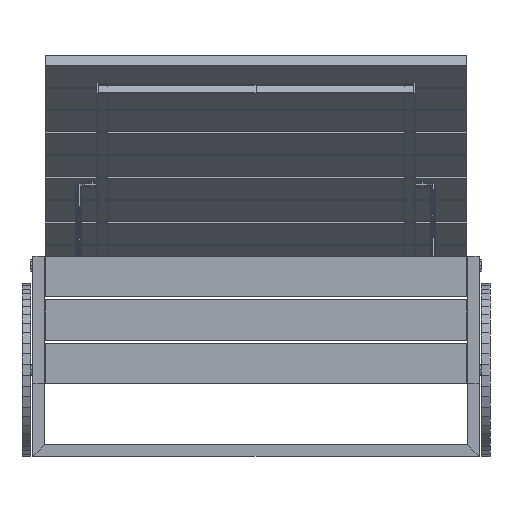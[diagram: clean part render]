
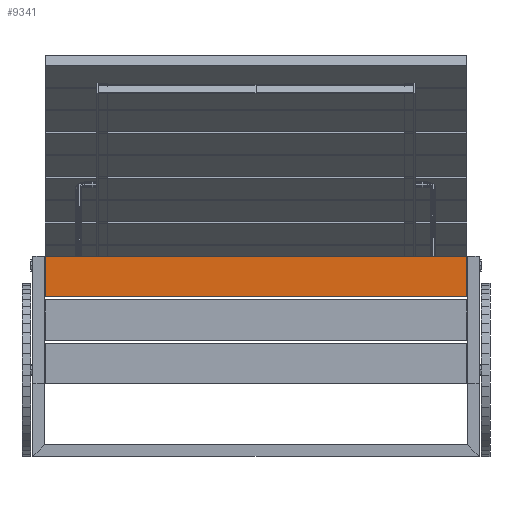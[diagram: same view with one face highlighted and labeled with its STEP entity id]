
A CAD part, left-side view. The second image highlights one B-rep face of the part: STEP entity #9341.
In plain terms, the highlighted planar face has unit normal (-1, 0, 0).
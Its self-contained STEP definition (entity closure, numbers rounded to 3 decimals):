
#193=FACE_OUTER_BOUND('',#793,.T.);
#793=EDGE_LOOP('',(#6196,#6197,#6198,#6199));
#1548=LINE('',#13567,#2760);
#1554=LINE('',#13578,#2766);
#1555=LINE('',#13581,#2767);
#1556=LINE('',#13582,#2768);
#2760=VECTOR('',#11100,10.);
#2766=VECTOR('',#11110,10.);
#2767=VECTOR('',#11113,10.);
#2768=VECTOR('',#11114,10.);
#3866=VERTEX_POINT('',#13564);
#3867=VERTEX_POINT('',#13566);
#3870=VERTEX_POINT('',#13576);
#3871=VERTEX_POINT('',#13580);
#4660=EDGE_CURVE('',#3866,#3867,#1548,.T.);
#4666=EDGE_CURVE('',#3866,#3870,#1554,.T.);
#4667=EDGE_CURVE('',#3870,#3871,#1555,.T.);
#4668=EDGE_CURVE('',#3871,#3867,#1556,.T.);
#6196=ORIENTED_EDGE('',*,*,#4666,.T.);
#6197=ORIENTED_EDGE('',*,*,#4667,.T.);
#6198=ORIENTED_EDGE('',*,*,#4668,.T.);
#6199=ORIENTED_EDGE('',*,*,#4660,.F.);
#8141=PLANE('',#10025);
#9341=ADVANCED_FACE('',(#193),#8141,.T.);
#10025=AXIS2_PLACEMENT_3D('',#13579,#11111,#11112);
#11100=DIRECTION('',(0.,0.,-1.));
#11110=DIRECTION('',(0.,1.,0.));
#11111=DIRECTION('center_axis',(-1.,0.,0.));
#11112=DIRECTION('ref_axis',(0.,0.,1.));
#11113=DIRECTION('',(0.,0.,-1.));
#11114=DIRECTION('',(0.,-1.,0.));
#13564=CARTESIAN_POINT('',(-994.,-362.999,345.));
#13566=CARTESIAN_POINT('',(-994.,-362.999,275.));
#13567=CARTESIAN_POINT('',(-994.,-362.999,345.));
#13576=CARTESIAN_POINT('',(-994.,363.001,345.));
#13578=CARTESIAN_POINT('',(-994.,-362.999,345.));
#13579=CARTESIAN_POINT('Origin',(-994.,-362.999,275.));
#13580=CARTESIAN_POINT('',(-994.,363.001,275.));
#13581=CARTESIAN_POINT('',(-994.,363.001,345.));
#13582=CARTESIAN_POINT('',(-994.,363.001,275.));
